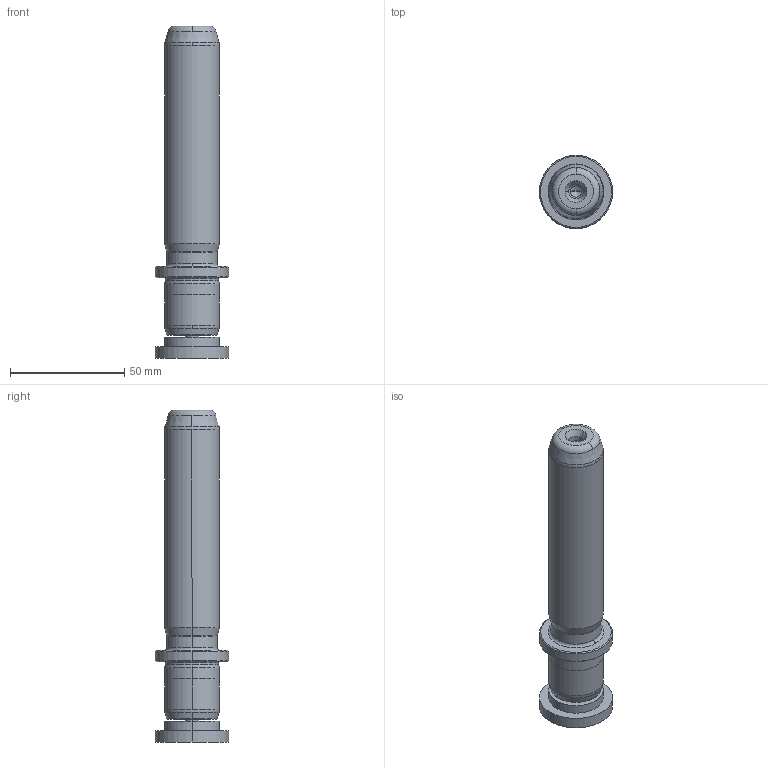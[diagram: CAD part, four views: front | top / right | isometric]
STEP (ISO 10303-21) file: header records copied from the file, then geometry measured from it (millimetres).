
FILE_DESCRIPTION((''),'2;1');
FILE_NAME('P22_024_110.stp','2009-02-02T15:29:36',(''),(''),'Mechanical Desktop 2009','Mechanical Desktop 2009',', , ');
FILE_SCHEMA(('CONFIG_CONTROL_DESIGN'));
Length unit declared in the file: millimetre
Products named in the file (2): Product; blmdl1
Assembly tree (1 placements, depth 2):
  Product
    blmdl1
Bounding box: 32 x 32 x 145 mm (x, y, z)
Volume: 66220.9 mm3; surface area: 15514.8 mm2
Topology: 3 solids, 3 shells, 99 faces, 237 edges, 149 vertices
Faces by surface type: cylinder 32, cone 28, plane 19, torus 10, bspline 10
Entity records: 3419 total; most frequent: CARTESIAN_POINT 923, DIRECTION 570, ORIENTED_EDGE 466, AXIS2_PLACEMENT_3D 246, EDGE_CURVE 233, CIRCLE 155, VERTEX_POINT 149, EDGE_LOOP 110
